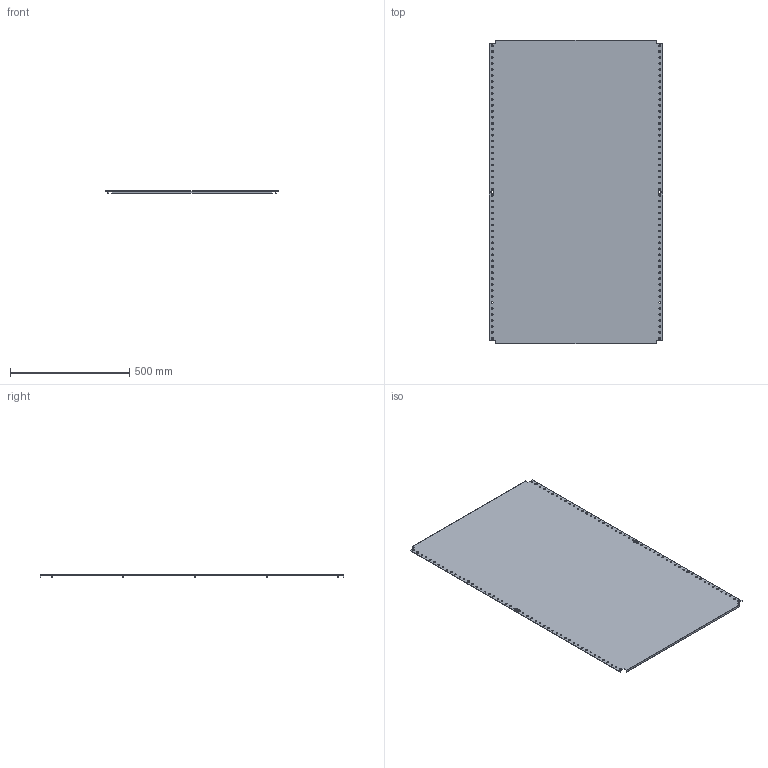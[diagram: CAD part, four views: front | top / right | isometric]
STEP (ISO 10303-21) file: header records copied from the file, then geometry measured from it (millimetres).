
FILE_DESCRIPTION (( 'STEP AP203' ), '1' );
FILE_NAME ('R6MP1480.STEP', '2025-03-28T12:08:16', ( '' ), ( '' ), 'SwSTEP 2.0', 'SolidWorks 2022', '' );
FILE_SCHEMA (( 'CONFIG_CONTROL_DESIGN' ));
Length unit declared in the file: millimetre
Products named in the file (3): M5x12 DIN 7500 C Torx Zinc_stright; R6MP1480; RB.3293.00.00.0_-13
Assembly tree (11 placements, depth 2):
  R6MP1480
    RB.3293.00.00.0_-13
    M5x12 DIN 7500 C Torx Zinc_stright  x10
Bounding box: 725 x 1270 x 15.56 mm (x, y, z)
Volume: 1672016.1 mm3; surface area: 1868401.6 mm2
Topology: 11 solids, 11 shells, 294 faces, 696 edges, 434 vertices
Faces by surface type: cylinder 124, plane 110, torus 20, cone 20, sphere 10, bspline 10
Full cylindrical faces by diameter (mm): 5 x10, 6.5 x100, 9.5 x10
Entity records: 5605 total; most frequent: CARTESIAN_POINT 962, DIRECTION 856, ORIENTED_EDGE 632, EDGE_LOOP 462, AXIS2_PLACEMENT_3D 384, EDGE_CURVE 316, VERTEX_POINT 278, FACE_OUTER_BOUND 256
